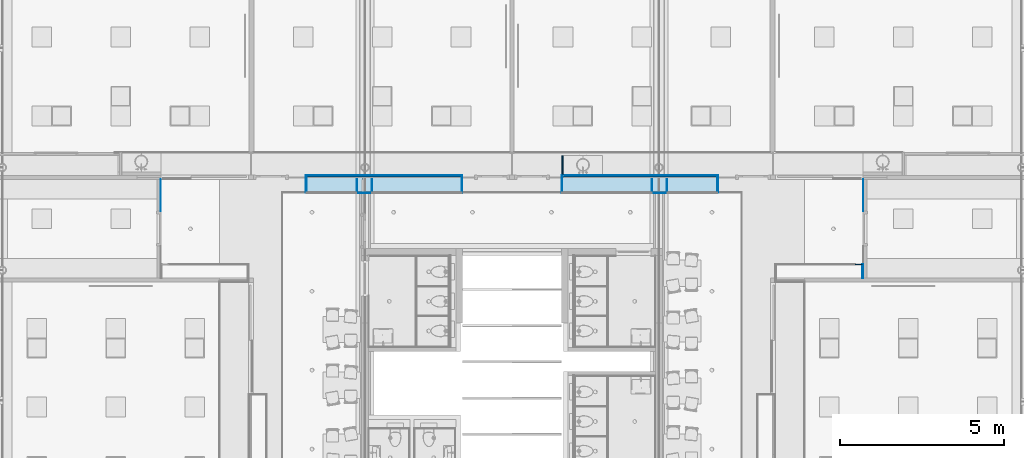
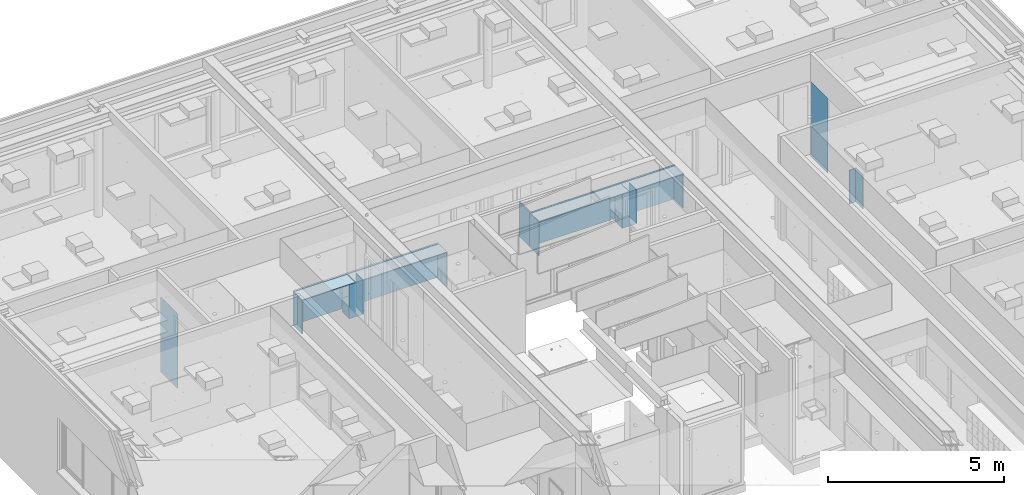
# One storey, part 22 of 260: 23 plates.
"""IFC2X3 building model written with IfcOpenShell, lengths in millimetres."""

from ifc_helpers import new_model, entity, si_unit, converted_unit, derived_unit, money_unit, direction, frame, origin_with_axes, place, context, subcontext, project, spatial, faceted_brep, material, type_object, element, save


model = new_model("IFC2X3")

# Units and contexts
model_context = context("Model", 3, precision=0.01, world=origin_with_axes(), true_north=direction((0.0, 1.0)))
plan_context = context("Plan", 3, precision=0.01, world=origin_with_axes(), true_north=direction((0.0, 1.0)))
body_context = subcontext(model_context, "Body", "Model", "MODEL_VIEW")
ifc_project = project(units=[si_unit("LENGTHUNIT", "METRE", prefix="MILLI"), si_unit("AREAUNIT", "SQUARE_METRE"), si_unit("VOLUMEUNIT", "CUBIC_METRE"), converted_unit("PLANEANGLEUNIT", "DEGREE", entity("IfcPlaneAngleMeasure", 0.0174532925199), si_unit("PLANEANGLEUNIT", "RADIAN"), dimensions=[0, 0, 0, 0, 0, 0, 0]), money_unit("EUR"), converted_unit("TIMEUNIT", "Year", entity("IfcTimeMeasure", 31556926.0), si_unit("TIMEUNIT", "SECOND"), dimensions=[0, 0, 1, 0, 0, 0, 0]), si_unit("MASSUNIT", "GRAM", prefix="KILO"), si_unit("THERMODYNAMICTEMPERATUREUNIT", "DEGREE_CELSIUS"), si_unit("LUMINOUSINTENSITYUNIT", "LUMEN"), si_unit("ENERGYUNIT", "JOULE", prefix="MEGA"), derived_unit("THERMALCONDUCTANCEUNIT", [(si_unit("POWERUNIT", "WATT"), 1), (si_unit("LENGTHUNIT", "METRE"), -1), (si_unit("THERMODYNAMICTEMPERATUREUNIT", "KELVIN"), -1)]), derived_unit("SPECIFICHEATCAPACITYUNIT", [(si_unit("ENERGYUNIT", "JOULE"), 1), (si_unit("MASSUNIT", "GRAM", prefix="KILO"), -1), (si_unit("THERMODYNAMICTEMPERATUREUNIT", "KELVIN"), -1)]), derived_unit("MASSDENSITYUNIT", [(si_unit("MASSUNIT", "GRAM", prefix="KILO"), 1), (si_unit("VOLUMEUNIT", "CUBIC_METRE"), -1)])], contexts=[model_context, plan_context])

# Site, building, storey
site_placement = place(None, origin_with_axes())
site = spatial("IfcSite", under=ifc_project, at=site_placement, Name="Site", CompositionType="ELEMENT")
building_placement = place(site_placement, origin_with_axes())
building = spatial("IfcBuilding", under=site, at=building_placement, Name="Naam gebouw", CompositionType="ELEMENT")
storey_placement = place(building_placement, frame((0.0, 0.0, 3960.0), z_axis=(0.0, 0.0, 1.0), x_axis=(1.0, 0.0, 0.0)))
storey = spatial("IfcBuildingStorey", under=building, at=storey_placement, Name="verdieping", CompositionType="ELEMENT", Elevation=3960.0)

# Plates
ifc_material_1 = material(Name="Hout - Lockers")
plate_type_1 = type_object("IfcPlateType", Name="Hout - Lockers 1175", PredefinedType="SHEET")
plate_1_placement = place(storey_placement, frame((41594.9999967, 39075.5, 0.0), z_axis=(0.0, 0.0, 1.0), x_axis=(1.0, 0.0, 0.0)))
element("IfcPlate", 1, at=plate_1_placement, inside=storey, type_object=plate_type_1, material=ifc_material_1, Name="72_72 vaste inrichting", ObjectType="SHEET", context=body_context, shape_type="Brep", body=[
    faceted_brep([(0.0, 0.0, 1175.0), (0.0, 0.0, 0.0), (4736.00000327, 0.0, 0.0), (4736.00000327, 0.0, 1175.0), (-11.9999967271, 12.0, 1175.0), (-11.9999967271, 12.0, 0.0), (4748.00000327, 12.0, 0.0), (4748.00000327, 12.0, 1175.0)], [[[0, 1, 2, 3]], [[4, 5, 1, 0]], [[2, 1, 5, 6]], [[3, 2, 6, 7]], [[4, 0, 3, 7]], [[7, 6, 5, 4]]]),
])
plate_2_placement = place(storey_placement, frame((33819.0, 39075.5, 0.0), z_axis=(0.0, 0.0, 1.0), x_axis=(1.0, 0.0, 0.0)))
element("IfcPlate", 2, at=plate_2_placement, inside=storey, type_object=plate_type_1, material=ifc_material_1, Name="72_72 vaste inrichting", ObjectType="SHEET", context=body_context, shape_type="Brep", body=[
    faceted_brep([(0.0, 0.0, 1175.0), (0.0, 0.0, 0.0), (4736.00000327, 0.0, 0.0), (4736.00000327, 0.0, 1175.0), (-12.0, 12.0, 1175.0), (-12.0, 12.0, 0.0), (4748.0, 12.0, 0.0), (4748.0, 12.0, 1175.0)], [[[0, 1, 2, 3]], [[4, 5, 1, 0]], [[2, 1, 5, 6]], [[3, 2, 6, 7]], [[4, 0, 3, 7]], [[7, 6, 5, 4]]]),
])
plate_3_placement = place(storey_placement, frame((44345.0, 38962.4999967, 0.0), z_axis=(0.0, 0.0, 1.0), x_axis=(1.0, 0.0, 0.0)))
element("IfcPlate", 3, at=plate_3_placement, inside=storey, type_object=plate_type_1, material=ifc_material_1, Name="72_72 vaste inrichting", ObjectType="SHEET", context=body_context, shape_type="Brep", body=[
    faceted_brep([(0.0, 0.0, 1175.0), (0.0, 0.0, 0.0), (-22.0, 0.0, 0.0), (-22.0, 0.0, 1175.0), (0.0, -399.999996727, 1175.0), (0.0, -399.999996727, 0.0), (-22.0, -399.999996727, 0.0), (-22.0, -399.999996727, 1175.0)], [[[0, 1, 2, 3]], [[4, 5, 1, 0]], [[2, 1, 5, 6]], [[3, 2, 6, 7]], [[4, 0, 3, 7]], [[7, 6, 5, 4]]]),
])
plate_4_placement = place(storey_placement, frame((35805.0, 38962.4999967, 0.0), z_axis=(0.0, 0.0, 1.0), x_axis=(1.0, 0.0, 0.0)))
element("IfcPlate", 4, at=plate_4_placement, inside=storey, type_object=plate_type_1, material=ifc_material_1, Name="72_72 vaste inrichting", ObjectType="SHEET", context=body_context, shape_type="Brep", body=[
    faceted_brep([(0.0, 0.0, 1175.0), (0.0, 0.0, 0.0), (0.0, -399.999996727, 0.0), (0.0, -399.999996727, 1175.0), (22.0, 0.0, 1175.0), (22.0, 0.0, 0.0), (22.0, -399.999996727, 0.0), (22.0, -399.999996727, 1175.0)], [[[0, 1, 2, 3]], [[4, 5, 1, 0]], [[2, 1, 5, 6]], [[3, 2, 6, 7]], [[4, 0, 3, 7]], [[7, 6, 5, 4]]]),
])
plate_type_2 = type_object("IfcPlateType", Name="Hout - Lockers 25", PredefinedType="SHEET")
plate_5_placement = place(storey_placement, frame((33807.0, 39087.5, 1200.0), z_axis=(0.0, 0.0, 1.0), x_axis=(1.0, 0.0, 0.0)))
element("IfcPlate", 5, at=plate_5_placement, inside=storey, type_object=plate_type_2, material=ifc_material_1, Name="72_72 vaste inrichting", ObjectType="SHEET", context=body_context, shape_type="Brep", body=[
    faceted_brep([(0.0, 0.0, 0.0), (0.0, 0.0, -25.0), (0.0, -56.0, -25.0), (0.0, -56.0, 0.0), (4760.0, 0.0, 0.0), (4760.0, 0.0, -25.0), (4760.0, -56.0, -25.0), (4760.0, -56.0, 0.0)], [[[0, 1, 2, 3]], [[4, 5, 1, 0]], [[2, 1, 5, 6]], [[3, 2, 6, 7]], [[4, 0, 3, 7]], [[7, 6, 5, 4]]]),
])
plate_6_placement = place(storey_placement, frame((41583.0, 39035.0, 1200.0), z_axis=(0.0, 0.0, 1.0), x_axis=(1.0, 0.0, 0.0)))
element("IfcPlate", 6, at=plate_6_placement, inside=storey, type_object=plate_type_2, material=ifc_material_1, Name="72_72 vaste inrichting", ObjectType="SHEET", context=body_context, shape_type="Brep", body=[
    faceted_brep([(0.0, 0.0, 0.0), (0.0, 0.0, -25.0), (4760.0, 0.0, -25.0), (4760.0, 0.0, 0.0), (0.0, 52.5000500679, 0.0), (0.0, 52.5000500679, -25.0), (4760.0, 52.5000500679, -25.0), (4760.0, 52.5000500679, 0.0)], [[[0, 1, 2, 3]], [[4, 5, 1, 0]], [[2, 1, 5, 6]], [[3, 2, 6, 7]], [[4, 0, 3, 7]], [[7, 6, 5, 4]]]),
])
ifc_material_2 = material(Name="ALG - LICHTE SCHEIDINGSWAND - master")
plate_type_3 = type_object("IfcPlateType", Name="ALG - LICHTE SCHEIDINGSWAND - master 2600", PredefinedType="SHEET")
plate_7_placement = place(storey_placement, frame((50762.5, 37994.5000179, 0.0), z_axis=(0.0, 0.0, 1.0), x_axis=(1.0, 0.0, 0.0)))
element("IfcPlate", 7, at=plate_7_placement, inside=storey, type_object=plate_type_3, material=ifc_material_2, Name="72_72 vaste inrichting", ObjectType="SHEET", context=body_context, shape_type="Brep", body=[
    faceted_brep([(0.0, 0.0, 2600.0), (0.0, 0.0, 0.0), (0.0, 967.999982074, 0.0), (0.0, 967.999982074, 2600.0), (-12.5, 0.0, 2600.0), (-12.5, 0.0, 0.0), (-12.5, 967.999982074, 0.0), (-12.5, 967.999982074, 2600.0)], [[[0, 1, 2, 3]], [[4, 5, 1, 0]], [[2, 1, 5, 6]], [[3, 2, 6, 7]], [[4, 0, 3, 7]], [[7, 6, 5, 4]]]),
])
plate_8_placement = place(storey_placement, frame((29387.5, 37994.5000179, 0.0), z_axis=(0.0, 0.0, 1.0), x_axis=(1.0, 0.0, 0.0)))
element("IfcPlate", 8, at=plate_8_placement, inside=storey, type_object=plate_type_3, material=ifc_material_2, Name="72_72 vaste inrichting", ObjectType="SHEET", context=body_context, shape_type="Brep", body=[
    faceted_brep([(0.0, 0.0, 2600.0), (0.0, 0.0, 0.0), (12.5, 0.0, 0.0), (12.5, 0.0, 2600.0), (0.0, 967.999982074, 2600.0), (0.0, 967.999982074, 0.0), (12.5, 967.999982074, 0.0), (12.5, 967.999982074, 2600.0)], [[[0, 1, 2, 3]], [[4, 5, 1, 0]], [[2, 1, 5, 6]], [[3, 2, 6, 7]], [[4, 0, 3, 7]], [[7, 6, 5, 4]]]),
])
plate_type_4 = type_object("IfcPlateType", Name="Hout - Lockers 1178", PredefinedType="SHEET")
plate_9_placement = place(storey_placement, frame((44806.0, 38544.5, 0.0), z_axis=(0.0, 0.0, 1.0), x_axis=(1.0, 0.0, 0.0)))
element("IfcPlate", 9, at=plate_9_placement, inside=storey, type_object=plate_type_4, material=ifc_material_1, Name="72_72 vaste inrichting", ObjectType="SHEET", context=body_context, shape_type="Brep", body=[
    faceted_brep([(0.0, 0.0, 1178.0), (0.0, 0.0, 0.0), (0.0, 18.0, 0.0), (0.0, 18.0, 1178.0), (-486.0, 0.0, 1178.0), (-486.0, 0.0, 0.0), (-486.0, 18.0, 0.0), (-486.0, 18.0, 1178.0)], [[[0, 1, 2, 3]], [[4, 5, 1, 0]], [[2, 1, 5, 6]], [[3, 2, 6, 7]], [[4, 0, 3, 7]], [[7, 6, 5, 4]]]),
])
plate_10_placement = place(storey_placement, frame((46343.0, 39087.5, 0.0), z_axis=(0.0, 0.0, 1.0), x_axis=(1.0, 0.0, 0.0)))
element("IfcPlate", 10, at=plate_10_placement, inside=storey, type_object=plate_type_4, material=ifc_material_1, Name="72_72 vaste inrichting", ObjectType="SHEET", context=body_context, shape_type="Brep", body=[
    faceted_brep([(0.0, 0.0, 1178.0), (0.0, 0.0, 0.0), (-22.0201815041, -22.0201815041, 0.0), (-22.0201815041, -22.0201815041, 1178.0), (0.0, -525.0, 1178.0), (0.0, -525.0, 0.0), (-22.0201815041, -525.0, 0.0), (-22.0201815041, -525.0, 1178.0)], [[[0, 1, 2, 3]], [[4, 5, 1, 0]], [[2, 1, 5, 6]], [[3, 2, 6, 7]], [[4, 0, 3, 7]], [[7, 6, 5, 4]]]),
])
plate_11_placement = place(storey_placement, frame((41605.0, 39065.4999967, 0.0), z_axis=(0.0, 0.0, 1.0), x_axis=(1.0, 0.0, 0.0)))
element("IfcPlate", 11, at=plate_11_placement, inside=storey, type_object=plate_type_4, material=ifc_material_1, Name="72_72 vaste inrichting", ObjectType="SHEET", context=body_context, shape_type="Brep", body=[
    faceted_brep([(0.0, 0.0, 1178.0), (0.0, 0.0, 0.0), (-22.0, 22.0, 0.0), (-22.0, 22.0, 1178.0), (0.0, -521.0, 1178.0), (0.0, -521.0, 0.0), (-22.0, -521.0, 0.0), (-22.0, -521.0, 1178.0)], [[[0, 1, 2, 3]], [[4, 5, 1, 0]], [[2, 1, 5, 6]], [[3, 2, 6, 7]], [[4, 0, 3, 7]], [[7, 6, 5, 4]]]),
])
plate_12_placement = place(storey_placement, frame((44803.0, 38962.5, 0.0), z_axis=(0.0, 0.0, 1.0), x_axis=(1.0, 0.0, 0.0)))
element("IfcPlate", 12, at=plate_12_placement, inside=storey, type_object=plate_type_4, material=ifc_material_1, Name="72_72 vaste inrichting", ObjectType="SHEET", context=body_context, shape_type="Brep", body=[
    faceted_brep([(0.0, 0.0, 1178.0), (0.0, 0.0, 0.0), (-22.0, 0.0, 0.0), (-22.0, 0.0, 1178.0), (0.0, -400.0, 1178.0), (0.0, -400.0, 0.0), (-22.0, -400.0, 0.0), (-22.0, -400.0, 1178.0)], [[[0, 1, 2, 3]], [[4, 5, 1, 0]], [[2, 1, 5, 6]], [[3, 2, 6, 7]], [[4, 0, 3, 7]], [[7, 6, 5, 4]]]),
])
plate_13_placement = place(storey_placement, frame((33807.0, 39087.5, 0.0), z_axis=(0.0, 0.0, 1.0), x_axis=(1.0, 0.0, 0.0)))
element("IfcPlate", 13, at=plate_13_placement, inside=storey, type_object=plate_type_4, material=ifc_material_1, Name="72_72 vaste inrichting", ObjectType="SHEET", context=body_context, shape_type="Brep", body=[
    faceted_brep([(0.0, 0.0, 1178.0), (0.0, 0.0, 0.0), (0.0, -525.0, 0.0), (0.0, -525.0, 1178.0), (22.0201815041, -22.0201815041, 1178.0), (22.0201815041, -22.0201815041, 0.0), (22.0201815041, -525.0, 0.0), (22.0201815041, -525.0, 1178.0)], [[[0, 1, 2, 3]], [[4, 5, 1, 0]], [[2, 1, 5, 6]], [[3, 2, 6, 7]], [[4, 0, 3, 7]], [[7, 6, 5, 4]]]),
])
plate_14_placement = place(storey_placement, frame((38545.0, 39065.4999967, 0.0), z_axis=(0.0, 0.0, 1.0), x_axis=(1.0, 0.0, 0.0)))
element("IfcPlate", 14, at=plate_14_placement, inside=storey, type_object=plate_type_4, material=ifc_material_1, Name="72_72 vaste inrichting", ObjectType="SHEET", context=body_context, shape_type="Brep", body=[
    faceted_brep([(0.0, 0.0, 1178.0), (0.0, 0.0, 0.0), (0.0, -521.0, 0.0), (0.0, -521.0, 1178.0), (22.0, 22.0, 1178.0), (22.0, 22.0, 0.0), (22.0, -521.0, 0.0), (22.0, -521.0, 1178.0)], [[[0, 1, 2, 3]], [[4, 5, 1, 0]], [[2, 1, 5, 6]], [[3, 2, 6, 7]], [[4, 0, 3, 7]], [[7, 6, 5, 4]]]),
])
plate_15_placement = place(storey_placement, frame((35344.0, 38544.5, 0.0), z_axis=(0.0, 0.0, 1.0), x_axis=(1.0, 0.0, 0.0)))
element("IfcPlate", 15, at=plate_15_placement, inside=storey, type_object=plate_type_4, material=ifc_material_1, Name="72_72 vaste inrichting", ObjectType="SHEET", context=body_context, shape_type="Brep", body=[
    faceted_brep([(0.0, 0.0, 1178.0), (0.0, 0.0, 0.0), (486.0, 0.0, 0.0), (486.0, 0.0, 1178.0), (0.0, 18.0, 1178.0), (0.0, 18.0, 0.0), (486.0, 18.0, 0.0), (486.0, 18.0, 1178.0)], [[[0, 1, 2, 3]], [[4, 5, 1, 0]], [[2, 1, 5, 6]], [[3, 2, 6, 7]], [[4, 0, 3, 7]], [[7, 6, 5, 4]]]),
])
plate_16_placement = place(storey_placement, frame((35347.0, 38962.5, 0.0), z_axis=(0.0, 0.0, 1.0), x_axis=(1.0, 0.0, 0.0)))
element("IfcPlate", 16, at=plate_16_placement, inside=storey, type_object=plate_type_4, material=ifc_material_1, Name="72_72 vaste inrichting", ObjectType="SHEET", context=body_context, shape_type="Brep", body=[
    faceted_brep([(0.0, 0.0, 1178.0), (0.0, 0.0, 0.0), (0.0, -400.0, 0.0), (0.0, -400.0, 1178.0), (22.0, 0.0, 1178.0), (22.0, 0.0, 0.0), (22.0, -400.0, 0.0), (22.0, -400.0, 1178.0)], [[[0, 1, 2, 3]], [[4, 5, 1, 0]], [[2, 1, 5, 6]], [[3, 2, 6, 7]], [[4, 0, 3, 7]], [[7, 6, 5, 4]]]),
])
plate_17_placement = place(storey_placement, frame((50727.9999977, 36362.5000133, 0.0), z_axis=(0.0, 0.0, 1.0), x_axis=(1.0, 0.0, 0.0)))
element("IfcPlate", 17, at=plate_17_placement, inside=storey, type_object=plate_type_4, material=ifc_material_1, Name="72_72 vaste inrichting", ObjectType="SHEET", context=body_context, shape_type="Brep", body=[
    faceted_brep([(0.0, 0.0, 1178.0), (0.0, 0.0, 0.0), (0.0, 18.0, 0.0), (0.0, 18.0, 1178.0), (-208.999997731, 0.0, 1178.0), (-208.999997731, 0.0, 0.0), (-208.999997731, 18.0, 0.0), (-208.999997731, 18.0, 1178.0)], [[[0, 1, 2, 3]], [[4, 5, 1, 0]], [[2, 1, 5, 6]], [[3, 2, 6, 7]], [[4, 0, 3, 7]], [[7, 6, 5, 4]]]),
])
plate_18_placement = place(storey_placement, frame((50727.9999977, 35962.5, 0.0), z_axis=(0.0, 0.0, 1.0), x_axis=(1.0, 0.0, 0.0)))
element("IfcPlate", 18, at=plate_18_placement, inside=storey, type_object=plate_type_4, material=ifc_material_1, Name="72_72 vaste inrichting", ObjectType="SHEET", context=body_context, shape_type="Brep", body=[
    faceted_brep([(0.0, 0.0, 1178.0), (0.0, 0.0, 0.0), (22.0, 0.0, 0.0), (22.0, 0.0, 1178.0), (0.0, 418.000013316, 1178.0), (0.0, 418.000013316, 0.0), (22.0, 418.000013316, 0.0), (22.0, 418.000013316, 1178.0)], [[[0, 1, 2, 3]], [[4, 5, 1, 0]], [[2, 1, 5, 6]], [[3, 2, 6, 7]], [[4, 0, 3, 7]], [[7, 6, 5, 4]]]),
])
plate_type_5 = type_object("IfcPlateType", Name="Hout - Lockers 22", PredefinedType="SHEET")
plate_19_placement = place(storey_placement, frame((46343.0, 39015.0, 1200.0), z_axis=(0.0, 0.0, 1.0), x_axis=(1.0, 0.0, 0.0)))
element("IfcPlate", 19, at=plate_19_placement, inside=storey, type_object=plate_type_5, material=ifc_material_1, Name="72_72 vaste inrichting", ObjectType="SHEET", context=body_context, shape_type="Brep", body=[
    faceted_brep([(0.0, 0.0, 0.0), (0.0, 0.0, -22.0), (-1798.0, 0.0, -22.0), (-1798.0, 0.0, 0.0), (0.0, -470.5, 0.0), (0.0, -470.5, -22.0), (-1798.0, -470.5, -22.0), (-1798.0, -470.5, 0.0)], [[[0, 1, 2, 3]], [[4, 5, 1, 0]], [[2, 1, 5, 6]], [[3, 2, 6, 7]], [[4, 0, 3, 7]], [[7, 6, 5, 4]]]),
])
plate_20_placement = place(storey_placement, frame((41583.0, 39015.0, 1200.0), z_axis=(0.0, 0.0, 1.0), x_axis=(1.0, 0.0, 0.0)))
element("IfcPlate", 20, at=plate_20_placement, inside=storey, type_object=plate_type_5, material=ifc_material_1, Name="72_72 vaste inrichting", ObjectType="SHEET", context=body_context, shape_type="Brep", body=[
    faceted_brep([(0.0, 0.0, 0.0), (0.0, 0.0, -22.0), (0.0, -470.5, -22.0), (0.0, -470.5, 0.0), (2962.0, 0.0, 0.0), (2962.0, 0.0, -22.0), (2962.0, -470.5, -22.0), (2962.0, -470.5, 0.0)], [[[0, 1, 2, 3]], [[4, 5, 1, 0]], [[2, 1, 5, 6]], [[3, 2, 6, 7]], [[4, 0, 3, 7]], [[7, 6, 5, 4]]]),
])
plate_21_placement = place(storey_placement, frame((33807.0, 39015.0, 1200.0), z_axis=(0.0, 0.0, 1.0), x_axis=(1.0, 0.0, 0.0)))
element("IfcPlate", 21, at=plate_21_placement, inside=storey, type_object=plate_type_5, material=ifc_material_1, Name="72_72 vaste inrichting", ObjectType="SHEET", context=body_context, shape_type="Brep", body=[
    faceted_brep([(0.0, 0.0, 0.0), (0.0, 0.0, -22.0), (0.0, -470.5, -22.0), (0.0, -470.5, 0.0), (1740.5, 0.0, 0.0), (1740.5, 0.0, -22.0), (1740.5, -470.5, -22.0), (1740.5, -470.5, 0.0)], [[[0, 1, 2, 3]], [[4, 5, 1, 0]], [[2, 1, 5, 6]], [[3, 2, 6, 7]], [[4, 0, 3, 7]], [[7, 6, 5, 4]]]),
])
plate_22_placement = place(storey_placement, frame((38567.0, 39015.0, 1200.0), z_axis=(0.0, 0.0, 1.0), x_axis=(1.0, 0.0, 0.0)))
element("IfcPlate", 22, at=plate_22_placement, inside=storey, type_object=plate_type_5, material=ifc_material_1, Name="72_72 vaste inrichting", ObjectType="SHEET", context=body_context, shape_type="Brep", body=[
    faceted_brep([(0.0, 0.0, 0.0), (0.0, 0.0, -22.0), (-2999.5, 0.0, -22.0), (-2999.5, 0.0, 0.0), (0.0, -470.5, 0.0), (0.0, -470.5, -22.0), (-2999.5, -470.5, -22.0), (-2999.5, -470.5, 0.0)], [[[0, 1, 2, 3]], [[4, 5, 1, 0]], [[2, 1, 5, 6]], [[3, 2, 6, 7]], [[4, 0, 3, 7]], [[7, 6, 5, 4]]]),
])
plate_type_6 = type_object("IfcPlateType", Name="Hout - Lockers 1200", PredefinedType="SHEET")
plate_23_placement = place(storey_placement, frame((41633.0, 39687.5, 0.0), z_axis=(0.0, 0.0, 1.0), x_axis=(1.0, 0.0, 0.0)))
element("IfcPlate", 23, at=plate_23_placement, inside=storey, type_object=plate_type_6, material=ifc_material_1, Name="72_72 vaste inrichting", ObjectType="SHEET", context=body_context, shape_type="Brep", body=[
    faceted_brep([(0.0, 0.0, 1200.0), (0.0, 0.0, 0.0), (-50.0000016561, 0.0, 0.0), (-50.0000016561, 0.0, 1200.0), (0.0, -652.5, 1200.0), (0.0, -652.5, 0.0), (-50.0000016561, -652.5, 0.0), (-50.0000016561, -652.5, 1200.0)], [[[0, 1, 2, 3]], [[4, 5, 1, 0]], [[2, 1, 5, 6]], [[3, 2, 6, 7]], [[4, 0, 3, 7]], [[7, 6, 5, 4]]]),
])

save(model, "model.ifc")
